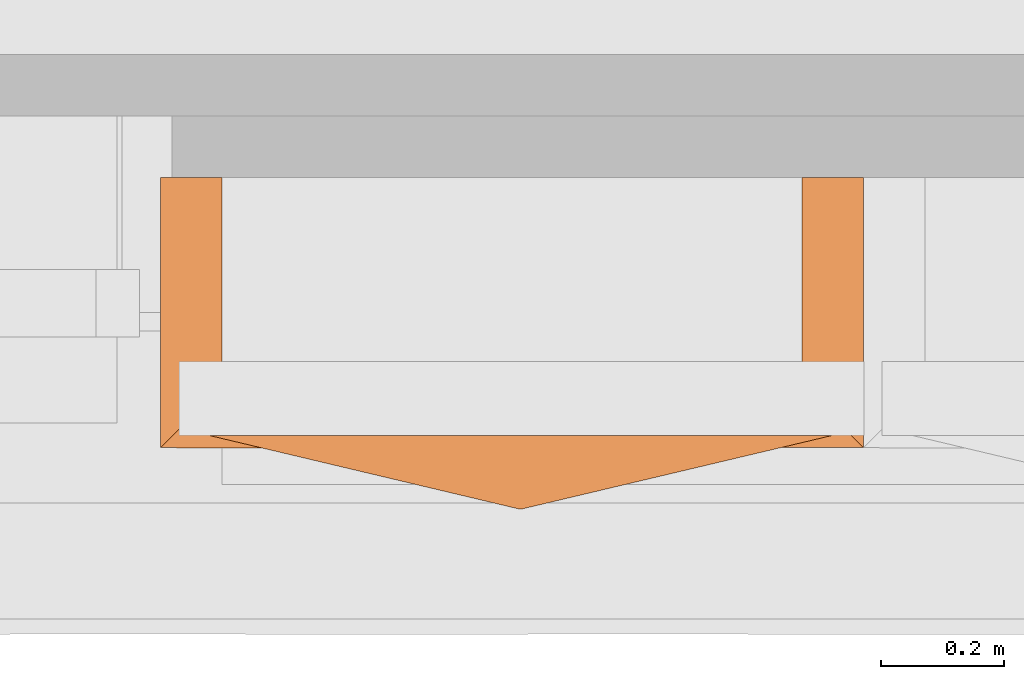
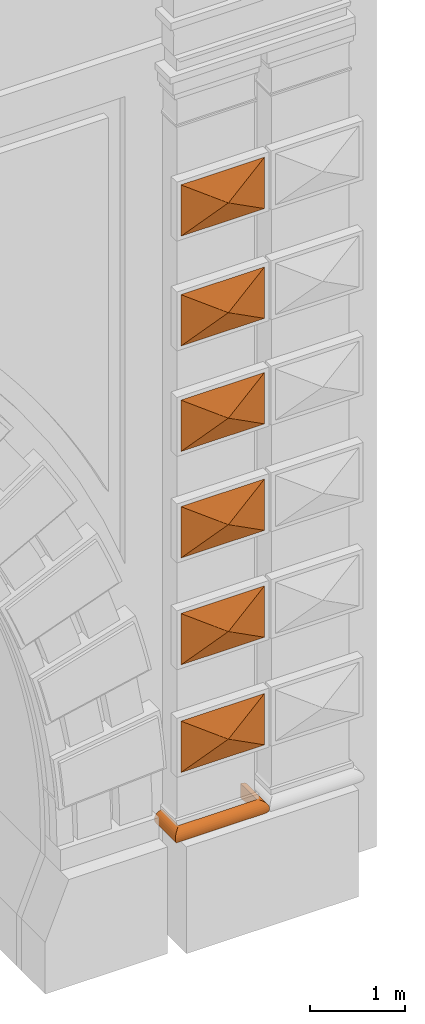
# One storey, part 37 of 44: 7 proxies.
"""IFC2X3 building model written with IfcOpenShell, lengths in metres."""

from ifc_helpers import new_model, entity, si_unit, converted_unit, derived_unit, direction, frame, origin, place, context, subcontext, project, spatial, faceted_brep, material, element, save


model = new_model("IFC2X3")

# Units and contexts
model_context = context("Model", 3, precision=1e-05, world=origin(), true_north=direction((6.12303176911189e-17, 1.0)))
body_context = subcontext(model_context, "Body", "Model", "MODEL_VIEW")
ifc_project = project(units=[si_unit("LENGTHUNIT", "METRE"), si_unit("AREAUNIT", "SQUARE_METRE"), si_unit("VOLUMEUNIT", "CUBIC_METRE"), converted_unit("PLANEANGLEUNIT", "DEGREE", entity("IfcRatioMeasure", 0.0174532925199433), si_unit("PLANEANGLEUNIT", "RADIAN"), dimensions=[0, 0, 0, 0, 0, 0, 0]), si_unit("MASSUNIT", "GRAM", prefix="KILO"), derived_unit("MASSDENSITYUNIT", [(si_unit("MASSUNIT", "GRAM", prefix="KILO"), 1), (si_unit("LENGTHUNIT", "METRE"), -3)]), si_unit("TIMEUNIT", "SECOND"), si_unit("FREQUENCYUNIT", "HERTZ"), si_unit("THERMODYNAMICTEMPERATUREUNIT", "DEGREE_CELSIUS"), derived_unit("THERMALTRANSMITTANCEUNIT", [(si_unit("MASSUNIT", "GRAM", prefix="KILO"), 1), (si_unit("THERMODYNAMICTEMPERATUREUNIT", "KELVIN"), -1), (si_unit("TIMEUNIT", "SECOND"), -3)]), derived_unit("VOLUMETRICFLOWRATEUNIT", [(si_unit("LENGTHUNIT", "METRE"), 3), (si_unit("TIMEUNIT", "SECOND"), -1)]), si_unit("ELECTRICCURRENTUNIT", "AMPERE"), si_unit("ELECTRICVOLTAGEUNIT", "VOLT"), si_unit("POWERUNIT", "WATT"), si_unit("FORCEUNIT", "NEWTON", prefix="KILO"), si_unit("ILLUMINANCEUNIT", "LUX"), si_unit("LUMINOUSFLUXUNIT", "LUMEN"), si_unit("LUMINOUSINTENSITYUNIT", "CANDELA"), derived_unit("USERDEFINED", [(si_unit("MASSUNIT", "GRAM", prefix="KILO"), -1), (si_unit("LENGTHUNIT", "METRE"), -2), (si_unit("TIMEUNIT", "SECOND"), 3), (si_unit("LUMINOUSFLUXUNIT", "LUMEN"), 1)]), derived_unit("LINEARVELOCITYUNIT", [(si_unit("LENGTHUNIT", "METRE"), 1), (si_unit("TIMEUNIT", "SECOND"), -1)]), si_unit("PRESSUREUNIT", "PASCAL"), derived_unit("USERDEFINED", [(si_unit("LENGTHUNIT", "METRE"), -2), (si_unit("MASSUNIT", "GRAM", prefix="KILO"), 1), (si_unit("TIMEUNIT", "SECOND"), -2)])], contexts=[model_context])

# Site, building, storey
site_placement = place(None, origin())
site = spatial("IfcSite", under=ifc_project, at=site_placement, Name="Default", CompositionType="ELEMENT")
building_placement = place(site_placement, origin())
building = spatial("IfcBuilding", under=site, at=building_placement, CompositionType="ELEMENT")
storey_placement = place(building_placement, origin())
storey = spatial("IfcBuildingStorey", under=building, at=storey_placement, Name="Livello 1", CompositionType="ELEMENT", Elevation=0.0)

# Proxies
ifc_material_1 = material(Name="Travertino")
proxy_1_placement = place(storey_placement, frame((9.21433424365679, -0.776050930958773, 1.36642590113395)))
element("IfcBuildingElementProxy", 1, at=proxy_1_placement, inside=storey, material=ifc_material_1, Name="Stratigrafia", context=body_context, shape_type="Brep", body=[
    faceted_brep([(0.0782163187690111, 0.441583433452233, 0.00192470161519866), (0.0557157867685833, 0.441583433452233, 0.00823791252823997), (0.0355879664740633, 0.441583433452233, 0.0201123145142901), (0.0191801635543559, 0.441583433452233, 0.0367530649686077), (0.00759067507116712, 0.441583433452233, 0.0570462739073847), (0.00159527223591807, 0.441583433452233, 0.0796335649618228), (0.00159527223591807, 0.441583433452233, 0.103003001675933), (0.00759067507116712, 0.441583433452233, 0.125590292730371), (0.0191801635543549, 0.441583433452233, 0.145883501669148), (0.0355879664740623, 0.441583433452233, 0.162524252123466), (0.0557157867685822, 0.441583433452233, 0.174398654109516), (0.07821631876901, 0.441583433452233, 0.180711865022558), (0.101583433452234, 0.441583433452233, 0.181041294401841), (0.101583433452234, 0.441583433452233, 0.0015952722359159), (1.04559604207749, 0.441583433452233, 0.0015952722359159), (1.04559604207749, 0.441583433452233, 0.181041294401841), (1.06896315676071, 0.441583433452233, 0.180711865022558), (1.09146368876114, 0.441583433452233, 0.174398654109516), (1.11159150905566, 0.441583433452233, 0.162524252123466), (1.12799931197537, 0.441583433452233, 0.145883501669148), (1.13958880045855, 0.441583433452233, 0.125590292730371), (1.1455842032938, 0.441583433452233, 0.103003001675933), (1.1455842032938, 0.441583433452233, 0.0796335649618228), (1.13958880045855, 0.441583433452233, 0.0570462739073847), (1.12799931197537, 0.441583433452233, 0.0367530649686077), (1.11159150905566, 0.441583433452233, 0.0201123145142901), (1.09146368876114, 0.441583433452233, 0.00823791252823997), (1.06896315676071, 0.441583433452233, 0.00192470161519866), (0.101583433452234, 0.101583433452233, 0.181041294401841), (0.101583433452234, 0.101583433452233, 0.0015952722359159), (0.0782163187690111, 0.0782163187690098, 0.00192470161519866), (0.0557157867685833, 0.0557157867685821, 0.00823791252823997), (0.0191801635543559, 0.0191801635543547, 0.0367530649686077), (0.00759067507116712, 0.00759067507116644, 0.0570462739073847), (0.0355879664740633, 0.0355879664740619, 0.0201123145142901), (0.00159527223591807, 0.00159527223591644, 0.0796335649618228), (0.00159527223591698, 0.00159527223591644, 0.103003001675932), (0.00759067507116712, 0.00759067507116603, 0.12559029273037), (0.0191801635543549, 0.0191801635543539, 0.145883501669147), (0.0355879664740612, 0.0355879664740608, 0.162524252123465), (0.0557157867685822, 0.0557157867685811, 0.174398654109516), (0.07821631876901, 0.0782163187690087, 0.180711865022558), (0.551583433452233, 0.101583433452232, 0.181041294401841), (1.00158343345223, 0.101583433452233, 0.181041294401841), (1.04559604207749, 0.101583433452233, 0.181041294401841), (1.04559604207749, 0.101583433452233, 0.0015952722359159), (1.00158343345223, 0.101583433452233, 0.0015952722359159), (0.551582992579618, 0.101583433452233, 0.0015952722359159), (0.632481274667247, 0.0839762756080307, 0.00127843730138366), (1.00158343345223, 0.0782163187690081, 0.180711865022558), (0.44886734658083, 0.0841064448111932, 0.18136842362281), (0.539899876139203, 0.0667610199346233, 0.178286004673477), (0.539899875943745, 0.0667610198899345, 0.00435056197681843), (1.00158343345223, 0.07821631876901, 0.00192470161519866), (1.00158343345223, 0.0557157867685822, 0.00823791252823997), (0.518585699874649, 0.0268436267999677, 0.0278998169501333), (1.00158343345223, 0.0191801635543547, 0.0367530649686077), (0.560796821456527, 0.0127263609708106, 0.0465232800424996), (1.00158343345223, 0.035587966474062, 0.0201123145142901), (0.518585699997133, 0.026843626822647, 0.154736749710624), (1.00158343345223, 0.0355879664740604, 0.162524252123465), (0.56225355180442, 0.0452662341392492, 0.169115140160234), (0.562253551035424, 0.0452662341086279, 0.0135214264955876), (1.00158343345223, 0.00759067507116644, 0.0570462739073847), (1.00158343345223, 0.00159527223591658, 0.0796335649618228), (0.504587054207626, 0.00385941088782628, 0.0681452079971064), (1.00158343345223, 0.00159527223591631, 0.103003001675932), (0.559410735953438, 0.000836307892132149, 0.0913182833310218), (0.504587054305, 0.00385941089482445, 0.114491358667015), (1.00158343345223, 0.0191801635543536, 0.145883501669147), (0.560796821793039, 0.0127263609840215, 0.136113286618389), (1.00158343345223, 0.00759067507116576, 0.12559029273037), (1.00158343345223, 0.0557157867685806, 0.174398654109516), (1.06896315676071, 0.0782163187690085, 0.180711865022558), (1.06896315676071, 0.0782163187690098, 0.00192470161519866), (1.09146368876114, 0.0557157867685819, 0.00823791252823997), (1.12799931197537, 0.0191801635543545, 0.0367530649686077), (1.13958880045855, 0.00759067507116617, 0.0570462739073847), (1.11159150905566, 0.0355879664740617, 0.0201123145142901), (1.1455842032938, 0.00159527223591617, 0.0796335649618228), (1.1455842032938, 0.00159527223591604, 0.103003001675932), (1.13958880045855, 0.00759067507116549, 0.12559029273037), (1.12799931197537, 0.0191801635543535, 0.145883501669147), (1.11159150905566, 0.0355879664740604, 0.162524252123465), (1.09146368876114, 0.0557157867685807, 0.174398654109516)], [[[0, 1, 2, 3, 4, 5, 6, 7, 8, 9, 10, 11, 12, 13]], [[14, 15, 16, 17, 18, 19, 20, 21, 22, 23, 24, 25, 26, 27]], [[13, 12, 28, 29]], [[30, 0, 13, 29]], [[31, 1, 0, 30]], [[32, 33, 4, 3]], [[3, 2, 34, 32]], [[34, 2, 1, 31]], [[35, 5, 4, 33]], [[35, 36, 6, 5]], [[6, 36, 37, 7]], [[38, 8, 7, 37]], [[9, 39, 40, 10]], [[40, 41, 11, 10]], [[39, 9, 8, 38]], [[11, 41, 28, 12]], [[29, 28, 42, 43, 44, 45, 46, 47]], [[48, 30, 29]], [[49, 50, 51]], [[46, 48, 29, 47]], [[52, 53, 54]], [[55, 56, 57]], [[42, 50, 49]], [[58, 56, 55]], [[59, 60, 61]], [[62, 52, 54]], [[40, 61, 51]], [[30, 48, 52]], [[63, 64, 65]], [[58, 55, 62]], [[48, 53, 52]], [[35, 33, 65]], [[64, 66, 67]], [[36, 68, 37]], [[34, 31, 62]], [[32, 34, 55]], [[32, 55, 57]], [[52, 62, 31]], [[56, 63, 57]], [[57, 33, 32]], [[69, 59, 70]], [[35, 65, 67]], [[28, 50, 42]], [[68, 66, 71]], [[53, 48, 46]], [[69, 70, 71]], [[72, 49, 51]], [[63, 65, 57]], [[61, 60, 72]], [[38, 70, 59]], [[59, 69, 60]], [[57, 65, 33]], [[68, 71, 70]], [[42, 49, 73, 44, 43]], [[67, 36, 35]], [[37, 68, 70]], [[54, 58, 62]], [[38, 59, 39]], [[66, 68, 67]], [[39, 59, 61]], [[50, 28, 41]], [[70, 38, 37]], [[40, 51, 41]], [[61, 40, 39]], [[51, 50, 41]], [[31, 30, 52]], [[36, 67, 68]], [[64, 67, 65]], [[62, 55, 34]], [[72, 51, 61]], [[74, 53, 46, 45]], [[75, 54, 53, 74]], [[76, 77, 63, 56]], [[56, 58, 78, 76]], [[78, 58, 54, 75]], [[79, 64, 63, 77]], [[79, 80, 66, 64]], [[66, 80, 81, 71]], [[82, 69, 71, 81]], [[60, 83, 84, 72]], [[84, 73, 49, 72]], [[83, 60, 69, 82]], [[45, 44, 15, 14]], [[45, 14, 27, 74]], [[26, 75, 74, 27]], [[24, 23, 77, 76]], [[78, 25, 24, 76]], [[75, 26, 25, 78]], [[77, 23, 22, 79]], [[22, 21, 80, 79]], [[81, 80, 21, 20]], [[19, 82, 81, 20]], [[17, 16, 73, 84]], [[84, 83, 18, 17]], [[83, 82, 19, 18]], [[44, 73, 16, 15]]]),
])
ifc_material_2 = material(Name="Piperno")
proxy_2_placement = place(storey_placement, frame((9.29502811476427, -0.87446749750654, 2.27958831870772)))
element("IfcBuildingElementProxy", 2, at=proxy_2_placement, inside=storey, material=ifc_material_2, Name="Stratigrafia", context=body_context, shape_type="Brep", body=[
    faceted_brep([(0.505641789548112, 0.0, 0.323456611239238), (0.50599352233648, 0.0, 0.32310487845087), (0.506345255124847, 0.0, 0.322753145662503), (0.506683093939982, 0.0, 0.322415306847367), (0.507203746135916, 0.0, 0.322935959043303), (0.507372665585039, 0.0, 0.323104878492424), (0.507724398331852, 0.0, 0.323456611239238), (0.507263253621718, 0.0, 0.323917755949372), (0.506683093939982, 0.0, 0.324497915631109), (0.506162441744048, 0.0, 0.323977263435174), (1.01413065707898, 0.12, 0.0), (0.842853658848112, 0.12, 0.0), (0.760597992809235, 0.12, 0.0), (0.507065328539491, 0.12, 0.0), (0.253532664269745, 0.12, 0.0), (0.171276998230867, 0.12, 0.0), (0.0, 0.12, 0.0), (0.0, 0.12, 0.65945975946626), (0.253532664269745, 0.12, 0.65945975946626), (0.507065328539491, 0.12, 0.65945975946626), (0.760597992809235, 0.12, 0.65945975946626), (1.01413065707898, 0.12, 0.65945975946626), (0.672736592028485, 0.0624385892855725, 0.498562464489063), (0.57045660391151, 0.0600000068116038, 0.49193922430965), (0.468888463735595, 0.0599999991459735, 0.491964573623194), (0.302298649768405, 0.048257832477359, 0.458579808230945), (0.810480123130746, 0.0717421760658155, 0.524336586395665), (0.374588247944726, 0.0600000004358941, 0.491814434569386), (0.198208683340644, 0.0729606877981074, 0.126793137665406), (0.4656151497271, 0.0600000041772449, 0.161224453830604), (0.546734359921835, 0.059999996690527, 0.161223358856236), (0.396548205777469, 0.0569466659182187, 0.169546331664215), (0.691854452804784, 0.0603313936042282, 0.160617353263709), (0.618950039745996, 0.0600000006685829, 0.161327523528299), (0.327782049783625, 0.0576525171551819, 0.167835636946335), (0.706232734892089, 0.0470393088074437, 0.196663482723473)], [[[0, 1, 2, 3, 4, 5, 6, 7, 8, 9]], [[10, 11, 12, 13, 14, 15, 16, 17, 18, 19, 20, 21]], [[22, 21, 20]], [[23, 20, 19]], [[24, 8, 23]], [[9, 25, 0]], [[24, 23, 19]], [[6, 26, 21, 22]], [[20, 23, 22]], [[7, 23, 8]], [[27, 9, 24]], [[24, 18, 27]], [[24, 19, 18]], [[23, 7, 22]], [[9, 8, 24]], [[17, 25, 27]], [[6, 22, 7]], [[17, 27, 18]], [[25, 9, 27]], [[25, 17, 16, 28, 0]], [[29, 13, 30]], [[2, 31, 29]], [[32, 33, 11]], [[30, 33, 4]], [[32, 5, 33]], [[3, 2, 29]], [[3, 29, 30]], [[14, 31, 15]], [[28, 16, 15]], [[14, 13, 29]], [[12, 30, 13]], [[4, 3, 30]], [[29, 31, 14]], [[2, 1, 31]], [[34, 15, 31]], [[28, 34, 0]], [[34, 31, 1]], [[0, 34, 1]], [[15, 34, 28]], [[32, 10, 35]], [[30, 12, 33]], [[12, 11, 33]], [[35, 6, 5]], [[4, 33, 5]], [[10, 32, 11]], [[5, 32, 35]], [[10, 21, 26, 6, 35]]]),
])
proxy_3_placement = place(storey_placement, frame((9.29502811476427, -0.87446749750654, 3.65810765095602)))
element("IfcBuildingElementProxy", 3, at=proxy_3_placement, inside=storey, material=ifc_material_2, Name="Stratigrafia", context=body_context, shape_type="Brep", body=[
    faceted_brep([(0.505641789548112, 0.0, 0.323456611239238), (0.50599352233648, 0.0, 0.323104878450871), (0.506345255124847, 0.0, 0.322753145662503), (0.506683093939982, 0.0, 0.322415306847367), (0.507203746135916, 0.0, 0.322935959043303), (0.507372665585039, 0.0, 0.323104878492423), (0.507724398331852, 0.0, 0.323456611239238), (0.50726325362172, 0.0, 0.323917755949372), (0.506683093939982, 0.0, 0.324497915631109), (0.506162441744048, 0.0, 0.323977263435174), (1.01413065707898, 0.12, 0.0), (0.842853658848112, 0.12, 0.0), (0.760597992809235, 0.12, 0.0), (0.507065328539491, 0.12, 0.0), (0.253532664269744, 0.12, 0.0), (0.171276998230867, 0.12, 0.0), (0.0, 0.12, 0.0), (0.0, 0.12, 0.65945975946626), (0.253532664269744, 0.12, 0.65945975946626), (0.507065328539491, 0.12, 0.65945975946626), (0.760597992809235, 0.12, 0.65945975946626), (1.01413065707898, 0.12, 0.65945975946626), (0.672736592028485, 0.0624385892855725, 0.498562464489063), (0.57045660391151, 0.0600000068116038, 0.49193922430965), (0.468888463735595, 0.0599999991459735, 0.491964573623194), (0.302298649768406, 0.048257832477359, 0.458579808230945), (0.810480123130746, 0.0717421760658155, 0.524336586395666), (0.374588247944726, 0.0600000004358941, 0.491814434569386), (0.198208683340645, 0.0729606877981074, 0.126793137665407), (0.4656151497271, 0.0600000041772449, 0.161224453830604), (0.546734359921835, 0.059999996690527, 0.161223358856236), (0.39654820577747, 0.0569466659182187, 0.169546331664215), (0.691854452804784, 0.0603313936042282, 0.160617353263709), (0.618950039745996, 0.0600000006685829, 0.161327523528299), (0.327782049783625, 0.0576525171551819, 0.167835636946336), (0.706232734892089, 0.0470393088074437, 0.196663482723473)], [[[0, 1, 2, 3, 4, 5, 6, 7, 8, 9]], [[10, 11, 12, 13, 14, 15, 16, 17, 18, 19, 20, 21]], [[22, 21, 20]], [[23, 20, 19]], [[24, 8, 23]], [[9, 25, 0]], [[24, 23, 19]], [[6, 26, 21, 22]], [[20, 23, 22]], [[7, 23, 8]], [[27, 9, 24]], [[24, 18, 27]], [[24, 19, 18]], [[23, 7, 22]], [[9, 8, 24]], [[17, 25, 27]], [[6, 22, 7]], [[17, 27, 18]], [[25, 9, 27]], [[25, 17, 16, 28, 0]], [[29, 13, 30]], [[2, 31, 29]], [[32, 33, 11]], [[30, 33, 4]], [[32, 5, 33]], [[3, 2, 29]], [[3, 29, 30]], [[14, 31, 15]], [[28, 16, 15]], [[14, 13, 29]], [[12, 30, 13]], [[4, 3, 30]], [[29, 31, 14]], [[2, 1, 31]], [[34, 15, 31]], [[28, 34, 0]], [[34, 31, 1]], [[0, 34, 1]], [[15, 34, 28]], [[32, 10, 35]], [[30, 12, 33]], [[12, 11, 33]], [[35, 6, 5]], [[4, 33, 5]], [[10, 32, 11]], [[5, 32, 35]], [[10, 21, 26, 6, 35]]]),
])
proxy_4_placement = place(storey_placement, frame((9.29502811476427, -0.87446749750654, 5.02776449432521)))
element("IfcBuildingElementProxy", 4, at=proxy_4_placement, inside=storey, material=ifc_material_2, Name="Stratigrafia", context=body_context, shape_type="Brep", body=[
    faceted_brep([(0.505641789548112, 0.0, 0.323456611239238), (0.50599352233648, 0.0, 0.323104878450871), (0.506345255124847, 0.0, 0.322753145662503), (0.506683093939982, 0.0, 0.322415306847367), (0.507203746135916, 0.0, 0.322935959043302), (0.507372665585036, 0.0, 0.323104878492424), (0.507724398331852, 0.0, 0.323456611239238), (0.50726325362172, 0.0, 0.323917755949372), (0.506683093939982, 0.0, 0.324497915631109), (0.506162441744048, 0.0, 0.323977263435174), (1.01413065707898, 0.12, 0.0), (0.842853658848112, 0.12, 0.0), (0.760597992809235, 0.12, 0.0), (0.507065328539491, 0.12, 0.0), (0.253532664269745, 0.12, 0.0), (0.171276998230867, 0.12, 0.0), (0.0, 0.12, 0.0), (0.0, 0.12, 0.65945975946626), (0.253532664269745, 0.12, 0.65945975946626), (0.507065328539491, 0.12, 0.65945975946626), (0.760597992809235, 0.12, 0.65945975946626), (1.01413065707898, 0.12, 0.65945975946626), (0.672736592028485, 0.0624385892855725, 0.498562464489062), (0.57045660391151, 0.0600000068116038, 0.49193922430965), (0.468888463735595, 0.0599999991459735, 0.491964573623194), (0.302298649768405, 0.048257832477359, 0.458579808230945), (0.810480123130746, 0.0717421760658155, 0.524336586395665), (0.374588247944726, 0.0600000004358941, 0.491814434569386), (0.198208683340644, 0.0729606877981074, 0.126793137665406), (0.4656151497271, 0.0600000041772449, 0.161224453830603), (0.546734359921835, 0.059999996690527, 0.161223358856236), (0.39654820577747, 0.0569466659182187, 0.169546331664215), (0.691854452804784, 0.0603313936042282, 0.16061735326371), (0.618950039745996, 0.0600000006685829, 0.1613275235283), (0.327782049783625, 0.0576525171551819, 0.167835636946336), (0.706232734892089, 0.0470393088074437, 0.196663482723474)], [[[0, 1, 2, 3, 4, 5, 6, 7, 8, 9]], [[10, 11, 12, 13, 14, 15, 16, 17, 18, 19, 20, 21]], [[22, 21, 20]], [[23, 20, 19]], [[24, 8, 23]], [[9, 25, 0]], [[24, 23, 19]], [[6, 26, 21, 22]], [[20, 23, 22]], [[7, 23, 8]], [[27, 9, 24]], [[24, 18, 27]], [[24, 19, 18]], [[23, 7, 22]], [[9, 8, 24]], [[17, 25, 27]], [[6, 22, 7]], [[17, 27, 18]], [[25, 9, 27]], [[25, 17, 16, 28, 0]], [[29, 13, 30]], [[2, 31, 29]], [[32, 33, 11]], [[30, 33, 4]], [[32, 5, 33]], [[3, 2, 29]], [[3, 29, 30]], [[14, 31, 15]], [[28, 16, 15]], [[14, 13, 29]], [[12, 30, 13]], [[4, 3, 30]], [[29, 31, 14]], [[2, 1, 31]], [[34, 15, 31]], [[28, 34, 0]], [[34, 31, 1]], [[0, 34, 1]], [[15, 34, 28]], [[32, 10, 35]], [[30, 12, 33]], [[12, 11, 33]], [[35, 6, 5]], [[4, 33, 5]], [[10, 32, 11]], [[5, 32, 35]], [[10, 21, 26, 6, 35]]]),
])
proxy_5_placement = place(storey_placement, frame((9.29502811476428, -0.87446749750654, 6.39218485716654)))
element("IfcBuildingElementProxy", 5, at=proxy_5_placement, inside=storey, material=ifc_material_2, Name="Stratigrafia", context=body_context, shape_type="Brep", body=[
    faceted_brep([(0.505641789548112, 0.0, 0.323456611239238), (0.50599352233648, 0.0, 0.323104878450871), (0.506345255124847, 0.0, 0.322753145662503), (0.506683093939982, 0.0, 0.322415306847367), (0.507203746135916, 0.0, 0.322935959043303), (0.507372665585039, 0.0, 0.323104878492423), (0.507724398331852, 0.0, 0.323456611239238), (0.50726325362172, 0.0, 0.323917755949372), (0.506683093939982, 0.0, 0.324497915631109), (0.506162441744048, 0.0, 0.323977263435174), (1.01413065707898, 0.12, 0.0), (0.842853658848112, 0.12, 0.0), (0.760597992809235, 0.12, 0.0), (0.507065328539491, 0.12, 0.0), (0.253532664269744, 0.12, 0.0), (0.171276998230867, 0.12, 0.0), (0.0, 0.12, 0.0), (0.0, 0.12, 0.65945975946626), (0.253532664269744, 0.12, 0.65945975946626), (0.507065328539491, 0.12, 0.65945975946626), (0.760597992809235, 0.12, 0.65945975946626), (1.01413065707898, 0.12, 0.65945975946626), (0.672736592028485, 0.0624385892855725, 0.498562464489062), (0.57045660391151, 0.0600000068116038, 0.49193922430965), (0.468888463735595, 0.0599999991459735, 0.491964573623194), (0.302298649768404, 0.048257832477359, 0.458579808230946), (0.810480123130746, 0.0717421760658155, 0.524336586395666), (0.374588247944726, 0.0600000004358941, 0.491814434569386), (0.198208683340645, 0.0729606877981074, 0.126793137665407), (0.4656151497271, 0.0600000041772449, 0.161224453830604), (0.546734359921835, 0.059999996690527, 0.161223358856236), (0.39654820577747, 0.0569466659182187, 0.169546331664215), (0.691854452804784, 0.0603313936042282, 0.16061735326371), (0.618950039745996, 0.0600000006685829, 0.1613275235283), (0.327782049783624, 0.0576525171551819, 0.167835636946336), (0.706232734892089, 0.0470393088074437, 0.196663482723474)], [[[0, 1, 2, 3, 4, 5, 6, 7, 8, 9]], [[10, 11, 12, 13, 14, 15, 16, 17, 18, 19, 20, 21]], [[22, 21, 20]], [[23, 20, 19]], [[24, 8, 23]], [[9, 25, 0]], [[24, 23, 19]], [[6, 26, 21, 22]], [[20, 23, 22]], [[7, 23, 8]], [[27, 9, 24]], [[24, 18, 27]], [[24, 19, 18]], [[23, 7, 22]], [[9, 8, 24]], [[17, 25, 27]], [[6, 22, 7]], [[17, 27, 18]], [[25, 9, 27]], [[25, 17, 16, 28, 0]], [[29, 13, 30]], [[2, 31, 29]], [[32, 33, 11]], [[30, 33, 4]], [[32, 5, 33]], [[3, 2, 29]], [[3, 29, 30]], [[14, 31, 15]], [[28, 16, 15]], [[14, 13, 29]], [[12, 30, 13]], [[4, 3, 30]], [[29, 31, 14]], [[2, 1, 31]], [[34, 15, 31]], [[28, 34, 0]], [[34, 31, 1]], [[0, 34, 1]], [[15, 34, 28]], [[32, 10, 35]], [[30, 12, 33]], [[12, 11, 33]], [[35, 6, 5]], [[4, 33, 5]], [[10, 32, 11]], [[5, 32, 35]], [[10, 21, 26, 6, 35]]]),
])
proxy_6_placement = place(storey_placement, frame((9.29502811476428, -0.87446749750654, 7.74389204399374)))
element("IfcBuildingElementProxy", 6, at=proxy_6_placement, inside=storey, material=ifc_material_2, Name="Stratigrafia", context=body_context, shape_type="Brep", body=[
    faceted_brep([(0.505641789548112, 0.0, 0.323456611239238), (0.50599352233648, 0.0, 0.323104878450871), (0.506345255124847, 0.0, 0.322753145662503), (0.506683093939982, 0.0, 0.322415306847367), (0.507203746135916, 0.0, 0.322935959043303), (0.507372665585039, 0.0, 0.323104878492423), (0.507724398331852, 0.0, 0.323456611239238), (0.507263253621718, 0.0, 0.323917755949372), (0.506683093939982, 0.0, 0.324497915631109), (0.506162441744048, 0.0, 0.323977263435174), (1.01413065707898, 0.12, 0.0), (0.842853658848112, 0.12, 0.0), (0.760597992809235, 0.12, 0.0), (0.507065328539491, 0.12, 0.0), (0.253532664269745, 0.12, 0.0), (0.171276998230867, 0.12, 0.0), (0.0, 0.12, 0.0), (0.0, 0.12, 0.65945975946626), (0.253532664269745, 0.12, 0.65945975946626), (0.507065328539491, 0.12, 0.65945975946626), (0.760597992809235, 0.12, 0.65945975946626), (1.01413065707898, 0.12, 0.65945975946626), (0.672736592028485, 0.0624385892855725, 0.498562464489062), (0.57045660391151, 0.0600000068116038, 0.49193922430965), (0.468888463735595, 0.0599999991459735, 0.491964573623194), (0.302298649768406, 0.048257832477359, 0.458579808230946), (0.810480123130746, 0.0717421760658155, 0.524336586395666), (0.374588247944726, 0.0600000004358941, 0.491814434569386), (0.198208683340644, 0.0729606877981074, 0.126793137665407), (0.4656151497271, 0.0600000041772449, 0.161224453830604), (0.546734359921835, 0.059999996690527, 0.161223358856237), (0.39654820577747, 0.0569466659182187, 0.169546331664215), (0.691854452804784, 0.0603313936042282, 0.16061735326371), (0.618950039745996, 0.0600000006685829, 0.1613275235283), (0.327782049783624, 0.0576525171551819, 0.167835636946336), (0.706232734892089, 0.0470393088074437, 0.196663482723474)], [[[0, 1, 2, 3, 4, 5, 6, 7, 8, 9]], [[10, 11, 12, 13, 14, 15, 16, 17, 18, 19, 20, 21]], [[22, 21, 20]], [[23, 20, 19]], [[24, 8, 23]], [[9, 25, 0]], [[24, 23, 19]], [[6, 26, 21, 22]], [[20, 23, 22]], [[7, 23, 8]], [[27, 9, 24]], [[24, 18, 27]], [[24, 19, 18]], [[23, 7, 22]], [[9, 8, 24]], [[17, 25, 27]], [[6, 22, 7]], [[17, 27, 18]], [[25, 9, 27]], [[25, 17, 16, 28, 0]], [[29, 13, 30]], [[2, 31, 29]], [[32, 33, 11]], [[30, 33, 4]], [[32, 5, 33]], [[3, 2, 29]], [[3, 29, 30]], [[14, 31, 15]], [[28, 16, 15]], [[14, 13, 29]], [[12, 30, 13]], [[4, 3, 30]], [[29, 31, 14]], [[2, 1, 31]], [[34, 15, 31]], [[28, 34, 0]], [[34, 31, 1]], [[0, 34, 1]], [[15, 34, 28]], [[32, 10, 35]], [[30, 12, 33]], [[12, 11, 33]], [[35, 6, 5]], [[4, 33, 5]], [[10, 32, 11]], [[5, 32, 35]], [[10, 21, 26, 6, 35]]]),
])
proxy_7_placement = place(storey_placement, frame((9.29502811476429, -0.87446749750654, 9.15040424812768)))
element("IfcBuildingElementProxy", 7, at=proxy_7_placement, inside=storey, material=ifc_material_2, Name="Stratigrafia", context=body_context, shape_type="Brep", body=[
    faceted_brep([(0.505641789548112, 0.0, 0.323456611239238), (0.50599352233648, 0.0, 0.323104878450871), (0.506345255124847, 0.0, 0.322753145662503), (0.506683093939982, 0.0, 0.322415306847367), (0.507203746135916, 0.0, 0.322935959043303), (0.507372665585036, 0.0, 0.323104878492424), (0.507724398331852, 0.0, 0.323456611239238), (0.50726325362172, 0.0, 0.323917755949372), (0.506683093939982, 0.0, 0.324497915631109), (0.506162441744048, 0.0, 0.323977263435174), (1.01413065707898, 0.12, 0.0), (0.842853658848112, 0.12, 0.0), (0.760597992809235, 0.12, 0.0), (0.507065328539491, 0.12, 0.0), (0.253532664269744, 0.12, 0.0), (0.171276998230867, 0.12, 0.0), (0.0, 0.12, 0.0), (0.0, 0.12, 0.659459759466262), (0.253532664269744, 0.12, 0.659459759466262), (0.507065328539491, 0.12, 0.659459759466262), (0.760597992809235, 0.12, 0.659459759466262), (1.01413065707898, 0.12, 0.659459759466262), (0.672736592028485, 0.0624385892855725, 0.498562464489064), (0.57045660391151, 0.0600000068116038, 0.491939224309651), (0.468888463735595, 0.0599999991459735, 0.491964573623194), (0.302298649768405, 0.048257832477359, 0.458579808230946), (0.810480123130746, 0.0717421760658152, 0.524336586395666), (0.374588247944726, 0.0600000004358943, 0.491814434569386), (0.198208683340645, 0.0729606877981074, 0.126793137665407), (0.4656151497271, 0.0600000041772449, 0.161224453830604), (0.546734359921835, 0.059999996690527, 0.161223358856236), (0.39654820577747, 0.0569466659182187, 0.169546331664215), (0.691854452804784, 0.0603313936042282, 0.160617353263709), (0.618950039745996, 0.0600000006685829, 0.1613275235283), (0.327782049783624, 0.0576525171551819, 0.167835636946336), (0.706232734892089, 0.0470393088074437, 0.196663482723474)], [[[0, 1, 2, 3, 4, 5, 6, 7, 8, 9]], [[10, 11, 12, 13, 14, 15, 16, 17, 18, 19, 20, 21]], [[22, 21, 20]], [[23, 20, 19]], [[24, 8, 23]], [[9, 25, 0]], [[24, 23, 19]], [[6, 26, 21, 22]], [[20, 23, 22]], [[7, 23, 8]], [[27, 9, 24]], [[24, 18, 27]], [[24, 19, 18]], [[23, 7, 22]], [[9, 8, 24]], [[17, 25, 27]], [[6, 22, 7]], [[17, 27, 18]], [[25, 9, 27]], [[25, 17, 16, 28, 0]], [[29, 13, 30]], [[2, 31, 29]], [[32, 33, 11]], [[30, 33, 4]], [[32, 5, 33]], [[3, 2, 29]], [[3, 29, 30]], [[14, 31, 15]], [[28, 16, 15]], [[14, 13, 29]], [[12, 30, 13]], [[4, 3, 30]], [[29, 31, 14]], [[2, 1, 31]], [[34, 15, 31]], [[28, 34, 0]], [[34, 31, 1]], [[0, 34, 1]], [[15, 34, 28]], [[32, 10, 35]], [[30, 12, 33]], [[12, 11, 33]], [[35, 6, 5]], [[4, 33, 5]], [[10, 32, 11]], [[5, 32, 35]], [[10, 21, 26, 6, 35]]]),
])

save(model, "model.ifc")
